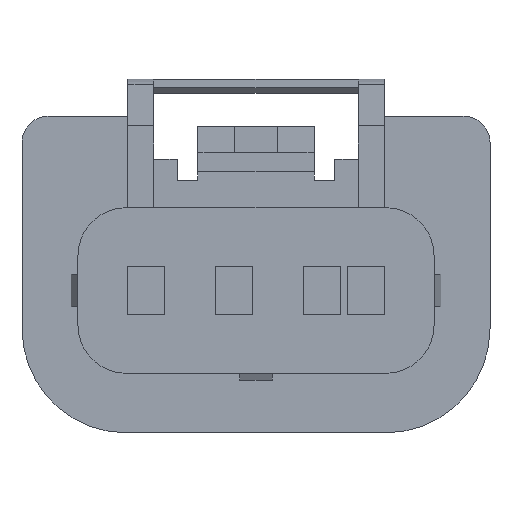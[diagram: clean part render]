
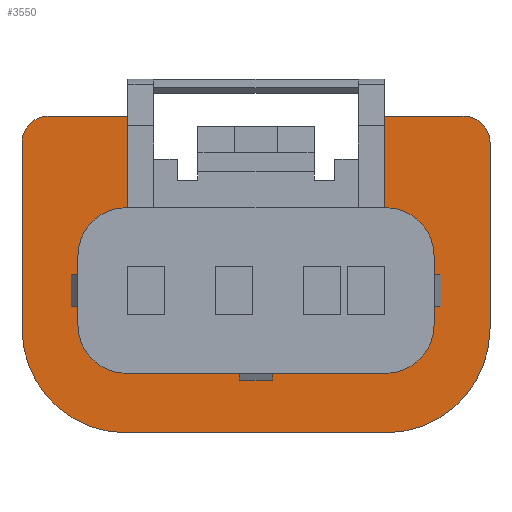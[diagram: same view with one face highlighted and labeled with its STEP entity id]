
A CAD part, left-side view. The second image highlights one B-rep face of the part: STEP entity #3550.
In plain terms, the highlighted planar face has unit normal (-1, 0, 0).
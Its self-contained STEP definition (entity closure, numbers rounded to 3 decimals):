
#642=CARTESIAN_POINT('Axis2P3D Location',(-19.88,0.,0.)) ;
#2406=CARTESIAN_POINT('Vertex',(-19.88,-13.5,16.76)) ;
#2409=CARTESIAN_POINT('Line Origine',(-19.88,-13.5,11.385)) ;
#2413=CARTESIAN_POINT('Vertex',(-19.88,-13.5,6.01)) ;
#2441=CARTESIAN_POINT('Vertex',(-19.88,13.5,16.76)) ;
#2448=CARTESIAN_POINT('Vertex',(-19.88,13.5,6.01)) ;
#2451=CARTESIAN_POINT('Line Origine',(-19.88,13.5,11.385)) ;
#2472=CARTESIAN_POINT('Axis2P3D Location',(-19.88,12.,16.76)) ;
#2476=CARTESIAN_POINT('Vertex',(-19.88,12.,18.26)) ;
#2496=CARTESIAN_POINT('Line Origine',(-19.88,9.7,18.26)) ;
#2500=CARTESIAN_POINT('Vertex',(-19.88,7.4,18.26)) ;
#2520=CARTESIAN_POINT('Line Origine',(-19.88,7.4,15.625)) ;
#2524=CARTESIAN_POINT('Vertex',(-19.88,7.4,12.99)) ;
#2553=CARTESIAN_POINT('Vertex',(-19.88,-7.4,12.99)) ;
#2556=CARTESIAN_POINT('Line Origine',(-19.88,-7.4,15.625)) ;
#2560=CARTESIAN_POINT('Vertex',(-19.88,-7.4,18.26)) ;
#2580=CARTESIAN_POINT('Line Origine',(-19.88,-9.7,18.26)) ;
#2584=CARTESIAN_POINT('Vertex',(-19.88,-12.,18.26)) ;
#2604=CARTESIAN_POINT('Axis2P3D Location',(-19.88,-12.,16.76)) ;
#2625=CARTESIAN_POINT('Vertex',(-19.88,-7.49,0.)) ;
#2628=CARTESIAN_POINT('Axis2P3D Location',(-19.88,-7.49,6.01)) ;
#2649=CARTESIAN_POINT('Vertex',(-19.88,7.49,0.)) ;
#2652=CARTESIAN_POINT('Line Origine',(-19.88,0.,0.)) ;
#2669=CARTESIAN_POINT('Axis2P3D Location',(-19.88,7.49,6.01)) ;
#2882=CARTESIAN_POINT('Vertex',(-19.88,-10.27,6.21)) ;
#2885=CARTESIAN_POINT('Line Origine',(-19.88,-10.27,8.21)) ;
#2889=CARTESIAN_POINT('Vertex',(-19.88,-10.27,10.21)) ;
#2947=CARTESIAN_POINT('Vertex',(-19.88,-7.49,3.43)) ;
#2950=CARTESIAN_POINT('Axis2P3D Location',(-19.88,-7.49,6.21)) ;
#2971=CARTESIAN_POINT('Vertex',(-19.88,7.49,3.43)) ;
#2974=CARTESIAN_POINT('Line Origine',(-19.88,0.,3.43)) ;
#3029=CARTESIAN_POINT('Vertex',(-19.88,10.27,6.21)) ;
#3032=CARTESIAN_POINT('Axis2P3D Location',(-19.88,7.49,6.21)) ;
#3053=CARTESIAN_POINT('Vertex',(-19.88,10.27,10.21)) ;
#3056=CARTESIAN_POINT('Line Origine',(-19.88,10.27,8.21)) ;
#3111=CARTESIAN_POINT('Vertex',(-19.88,7.49,12.99)) ;
#3114=CARTESIAN_POINT('Axis2P3D Location',(-19.88,7.49,10.21)) ;
#3126=CARTESIAN_POINT('Line Origine',(-19.88,7.445,12.99)) ;
#3142=CARTESIAN_POINT('Vertex',(-19.88,-7.49,12.99)) ;
#3145=CARTESIAN_POINT('Line Origine',(-19.88,-7.445,12.99)) ;
#3162=CARTESIAN_POINT('Axis2P3D Location',(-19.88,-7.49,10.21)) ;
#643=DIRECTION('Axis2P3D Direction',(1.,0.,0.)) ;
#644=DIRECTION('Axis2P3D XDirection',(0.,1.,0.)) ;
#2410=DIRECTION('Vector Direction',(0.,0.,-1.)) ;
#2452=DIRECTION('Vector Direction',(0.,0.,1.)) ;
#2473=DIRECTION('Axis2P3D Direction',(-1.,0.,0.)) ;
#2497=DIRECTION('Vector Direction',(0.,1.,0.)) ;
#2521=DIRECTION('Vector Direction',(0.,0.,-1.)) ;
#2557=DIRECTION('Vector Direction',(0.,0.,-1.)) ;
#2581=DIRECTION('Vector Direction',(0.,1.,0.)) ;
#2605=DIRECTION('Axis2P3D Direction',(-1.,0.,0.)) ;
#2629=DIRECTION('Axis2P3D Direction',(1.,0.,0.)) ;
#2653=DIRECTION('Vector Direction',(0.,-1.,0.)) ;
#2670=DIRECTION('Axis2P3D Direction',(1.,0.,0.)) ;
#2886=DIRECTION('Vector Direction',(0.,0.,1.)) ;
#2951=DIRECTION('Axis2P3D Direction',(1.,0.,0.)) ;
#2975=DIRECTION('Vector Direction',(0.,-1.,0.)) ;
#3033=DIRECTION('Axis2P3D Direction',(1.,0.,0.)) ;
#3057=DIRECTION('Vector Direction',(0.,0.,-1.)) ;
#3115=DIRECTION('Axis2P3D Direction',(1.,0.,0.)) ;
#3127=DIRECTION('Vector Direction',(0.,1.,0.)) ;
#3146=DIRECTION('Vector Direction',(0.,1.,0.)) ;
#3163=DIRECTION('Axis2P3D Direction',(1.,0.,0.)) ;
#645=AXIS2_PLACEMENT_3D('Plane Axis2P3D',#642,#643,#644) ;
#2474=AXIS2_PLACEMENT_3D('Circle Axis2P3D',#2472,#2473,$) ;
#2606=AXIS2_PLACEMENT_3D('Circle Axis2P3D',#2604,#2605,$) ;
#2630=AXIS2_PLACEMENT_3D('Circle Axis2P3D',#2628,#2629,$) ;
#2671=AXIS2_PLACEMENT_3D('Circle Axis2P3D',#2669,#2670,$) ;
#2952=AXIS2_PLACEMENT_3D('Circle Axis2P3D',#2950,#2951,$) ;
#3034=AXIS2_PLACEMENT_3D('Circle Axis2P3D',#3032,#3033,$) ;
#3116=AXIS2_PLACEMENT_3D('Circle Axis2P3D',#3114,#3115,$) ;
#3164=AXIS2_PLACEMENT_3D('Circle Axis2P3D',#3162,#3163,$) ;
#3529=ORIENTED_EDGE('',*,*,#2608,.F.) ;
#3530=ORIENTED_EDGE('',*,*,#2586,.T.) ;
#3531=ORIENTED_EDGE('',*,*,#2562,.T.) ;
#3532=ORIENTED_EDGE('',*,*,#3149,.F.) ;
#3533=ORIENTED_EDGE('',*,*,#3166,.T.) ;
#3534=ORIENTED_EDGE('',*,*,#2891,.F.) ;
#3535=ORIENTED_EDGE('',*,*,#2954,.T.) ;
#3536=ORIENTED_EDGE('',*,*,#2978,.F.) ;
#3537=ORIENTED_EDGE('',*,*,#3036,.T.) ;
#3538=ORIENTED_EDGE('',*,*,#3060,.F.) ;
#3539=ORIENTED_EDGE('',*,*,#3118,.T.) ;
#3540=ORIENTED_EDGE('',*,*,#3130,.F.) ;
#3541=ORIENTED_EDGE('',*,*,#2526,.F.) ;
#3542=ORIENTED_EDGE('',*,*,#2502,.T.) ;
#3543=ORIENTED_EDGE('',*,*,#2478,.F.) ;
#3544=ORIENTED_EDGE('',*,*,#2455,.F.) ;
#3545=ORIENTED_EDGE('',*,*,#2673,.F.) ;
#3546=ORIENTED_EDGE('',*,*,#2656,.T.) ;
#3547=ORIENTED_EDGE('',*,*,#2632,.F.) ;
#3548=ORIENTED_EDGE('',*,*,#2415,.F.) ;
#2411=VECTOR('Line Direction',#2410,1.) ;
#2453=VECTOR('Line Direction',#2452,1.) ;
#2498=VECTOR('Line Direction',#2497,1.) ;
#2522=VECTOR('Line Direction',#2521,1.) ;
#2558=VECTOR('Line Direction',#2557,1.) ;
#2582=VECTOR('Line Direction',#2581,1.) ;
#2654=VECTOR('Line Direction',#2653,1.) ;
#2887=VECTOR('Line Direction',#2886,1.) ;
#2976=VECTOR('Line Direction',#2975,1.) ;
#3058=VECTOR('Line Direction',#3057,1.) ;
#3128=VECTOR('Line Direction',#3127,1.) ;
#3147=VECTOR('Line Direction',#3146,1.) ;
#3550=ADVANCED_FACE('BODY',(#3549),#646,.F.) ;
#2475=CIRCLE('generated circle',#2474,1.5) ;
#2607=CIRCLE('generated circle',#2606,1.5) ;
#2631=CIRCLE('generated circle',#2630,6.01) ;
#2672=CIRCLE('generated circle',#2671,6.01) ;
#2953=CIRCLE('generated circle',#2952,2.78) ;
#3035=CIRCLE('generated circle',#3034,2.78) ;
#3117=CIRCLE('generated circle',#3116,2.78) ;
#3165=CIRCLE('generated circle',#3164,2.78) ;
#2415=EDGE_CURVE('',#2407,#2414,#2412,.T.) ;
#2455=EDGE_CURVE('',#2449,#2442,#2454,.T.) ;
#2478=EDGE_CURVE('',#2442,#2477,#2475,.F.) ;
#2502=EDGE_CURVE('',#2501,#2477,#2499,.T.) ;
#2526=EDGE_CURVE('',#2501,#2525,#2523,.T.) ;
#2562=EDGE_CURVE('',#2561,#2554,#2559,.T.) ;
#2586=EDGE_CURVE('',#2585,#2561,#2583,.T.) ;
#2608=EDGE_CURVE('',#2585,#2407,#2607,.F.) ;
#2632=EDGE_CURVE('',#2414,#2626,#2631,.T.) ;
#2656=EDGE_CURVE('',#2650,#2626,#2655,.T.) ;
#2673=EDGE_CURVE('',#2650,#2449,#2672,.T.) ;
#2891=EDGE_CURVE('',#2883,#2890,#2888,.T.) ;
#2954=EDGE_CURVE('',#2883,#2948,#2953,.T.) ;
#2978=EDGE_CURVE('',#2972,#2948,#2977,.T.) ;
#3036=EDGE_CURVE('',#2972,#3030,#3035,.T.) ;
#3060=EDGE_CURVE('',#3054,#3030,#3059,.T.) ;
#3118=EDGE_CURVE('',#3054,#3112,#3117,.T.) ;
#3130=EDGE_CURVE('',#2525,#3112,#3129,.T.) ;
#3149=EDGE_CURVE('',#3143,#2554,#3148,.T.) ;
#3166=EDGE_CURVE('',#3143,#2890,#3165,.T.) ;
#3528=EDGE_LOOP('',(#3529,#3530,#3531,#3532,#3533,#3534,#3535,#3536,#3537,#3538,#3539,#3540,#3541,#3542,#3543,#3544,#3545,#3546,#3547,#3548)) ;
#3549=FACE_OUTER_BOUND('',#3528,.T.) ;
#2412=LINE('Line',#2409,#2411) ;
#2454=LINE('Line',#2451,#2453) ;
#2499=LINE('Line',#2496,#2498) ;
#2523=LINE('Line',#2520,#2522) ;
#2559=LINE('Line',#2556,#2558) ;
#2583=LINE('Line',#2580,#2582) ;
#2655=LINE('Line',#2652,#2654) ;
#2888=LINE('Line',#2885,#2887) ;
#2977=LINE('Line',#2974,#2976) ;
#3059=LINE('Line',#3056,#3058) ;
#3129=LINE('Line',#3126,#3128) ;
#3148=LINE('Line',#3145,#3147) ;
#646=PLANE('',#645) ;
#2407=VERTEX_POINT('',#2406) ;
#2414=VERTEX_POINT('',#2413) ;
#2442=VERTEX_POINT('',#2441) ;
#2449=VERTEX_POINT('',#2448) ;
#2477=VERTEX_POINT('',#2476) ;
#2501=VERTEX_POINT('',#2500) ;
#2525=VERTEX_POINT('',#2524) ;
#2554=VERTEX_POINT('',#2553) ;
#2561=VERTEX_POINT('',#2560) ;
#2585=VERTEX_POINT('',#2584) ;
#2626=VERTEX_POINT('',#2625) ;
#2650=VERTEX_POINT('',#2649) ;
#2883=VERTEX_POINT('',#2882) ;
#2890=VERTEX_POINT('',#2889) ;
#2948=VERTEX_POINT('',#2947) ;
#2972=VERTEX_POINT('',#2971) ;
#3030=VERTEX_POINT('',#3029) ;
#3054=VERTEX_POINT('',#3053) ;
#3112=VERTEX_POINT('',#3111) ;
#3143=VERTEX_POINT('',#3142) ;
